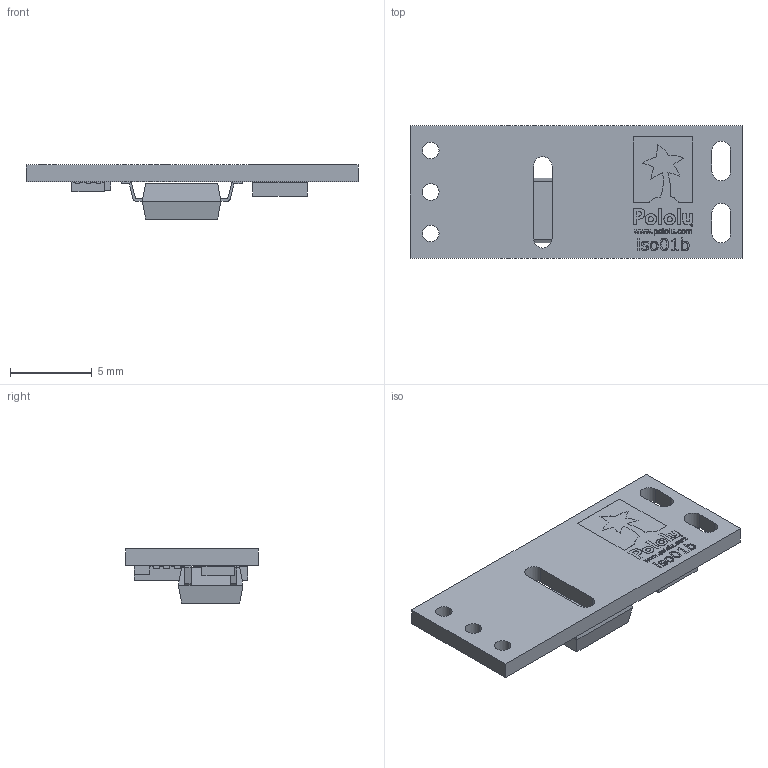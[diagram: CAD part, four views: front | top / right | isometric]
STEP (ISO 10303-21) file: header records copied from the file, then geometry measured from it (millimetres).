
FILE_DESCRIPTION (( 'STEP AP214' ), '1' );
FILE_NAME ('pololu-isolated-solid-state-relay-switch-spst-100v-4.5a.step', '2026-03-28T00:36:13', ( '' ), ( '' ), 'SwSTEP 2.0', 'SolidWorks 2026', '' );
FILE_SCHEMA (( 'AUTOMOTIVE_DESIGN' ));
Length unit declared in the file: millimetre
Products named in the file (1): pololu-isolated-solid-state-relay-switch-spst-100v-4.5a
Bounding box: 20.32 x 8.13 x 3.32 mm (x, y, z)
Volume: 215.6 mm3; surface area: 532.9 mm2
Topology: 1 solids, 1 shells, 676 faces, 1879 edges, 1238 vertices
Faces by surface type: plane 471, bspline 175, cylinder 30
Entity records: 35242 total; most frequent: CARTESIAN_POINT 11697, ORIENTED_EDGE 3758, DIRECTION 2593, EDGE_CURVE 1879, LINE 1469, VECTOR 1469, VERTEX_POINT 1238, EDGE_LOOP 753
